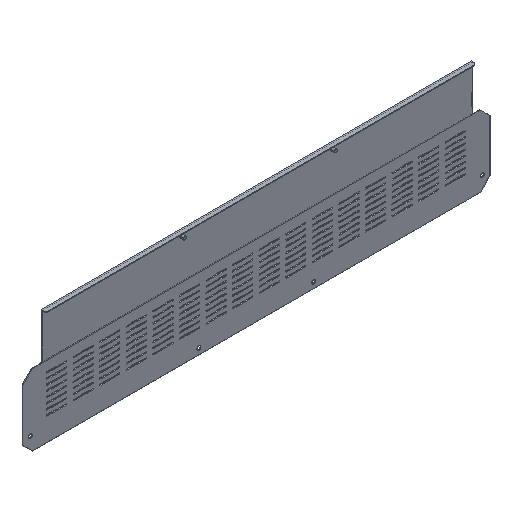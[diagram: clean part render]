
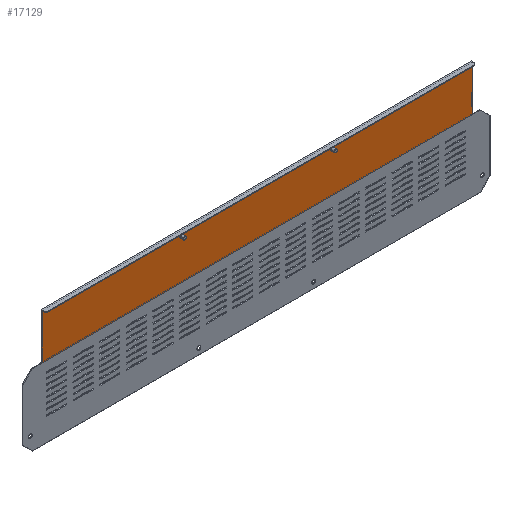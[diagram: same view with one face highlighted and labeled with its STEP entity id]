
A CAD part, isometric view. The second image highlights one B-rep face of the part: STEP entity #17129.
In plain terms, the highlighted planar face has unit normal (0, -1, 0).
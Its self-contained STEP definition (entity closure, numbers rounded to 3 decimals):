
#327 = ORIENTED_EDGE ( 'NONE', *, *, #8584, .F. ) ;
#524 = VERTEX_POINT ( 'NONE', #1787 ) ;
#1095 = VERTEX_POINT ( 'NONE', #18234 ) ;
#1181 = VERTEX_POINT ( 'NONE', #20427 ) ;
#1254 = LINE ( 'NONE', #19969, #20312 ) ;
#1562 = ORIENTED_EDGE ( 'NONE', *, *, #8973, .T. ) ;
#1728 = DIRECTION ( 'NONE',  ( 0., 0., 1. ) ) ;
#1787 = CARTESIAN_POINT ( 'NONE',  ( 39., 152.5, 78.005 ) ) ;
#1938 = LINE ( 'NONE', #11353, #7279 ) ;
#2128 = CARTESIAN_POINT ( 'NONE',  ( 45., 152.5, 77.995 ) ) ;
#2314 = EDGE_CURVE ( 'NONE', #8394, #15529, #17097, .T. ) ;
#2415 = CARTESIAN_POINT ( 'NONE',  ( -244.753, 152.5, 79.191 ) ) ;
#2444 = DIRECTION ( 'NONE',  ( 0., 0., 1. ) ) ;
#2530 = CARTESIAN_POINT ( 'NONE',  ( 304.75, 152.5, 88. ) ) ;
#2614 = CIRCLE ( 'NONE', #14310, 3. ) ;
#2991 = EDGE_CURVE ( 'NONE', #17244, #524, #7088, .T. ) ;
#3289 = FACE_BOUND ( 'NONE', #8401, .T. ) ;
#3604 = CARTESIAN_POINT ( 'NONE',  ( -242., 152.5, 78. ) ) ;
#3870 = DIRECTION ( 'NONE',  ( 0., -1., 0. ) ) ;
#3926 = ORIENTED_EDGE ( 'NONE', *, *, #17532, .T. ) ;
#3974 = DIRECTION ( 'NONE',  ( 0., 0., 1. ) ) ;
#4198 = DIRECTION ( 'NONE',  ( 0., 0., 1. ) ) ;
#4284 = VECTOR ( 'NONE', #9098, 1000. ) ;
#4383 = ORIENTED_EDGE ( 'NONE', *, *, #17153, .F. ) ;
#4393 = DIRECTION ( 'NONE',  ( 0., 0., -1. ) ) ;
#4680 = VERTEX_POINT ( 'NONE', #20259 ) ;
#5287 = CARTESIAN_POINT ( 'NONE',  ( -504.75, 152.5, 3. ) ) ;
#5906 = CIRCLE ( 'NONE', #9590, 3. ) ;
#6324 = DIRECTION ( 'NONE',  ( 0., 1., 0. ) ) ;
#6381 = CARTESIAN_POINT ( 'NONE',  ( -504.75, 152.5, 4.036 ) ) ;
#6534 = ORIENTED_EDGE ( 'NONE', *, *, #9200, .T. ) ;
#6985 = CARTESIAN_POINT ( 'NONE',  ( -242., 152.5, 78. ) ) ;
#7088 = CIRCLE ( 'NONE', #14789, 3. ) ;
#7278 = CARTESIAN_POINT ( 'NONE',  ( -504.75, 152.5, 4.036 ) ) ;
#7279 = VECTOR ( 'NONE', #17733, 1000. ) ;
#7434 = CARTESIAN_POINT ( 'NONE',  ( 304.75, 152.5, 0.293 ) ) ;
#7572 = EDGE_CURVE ( 'NONE', #1181, #19474, #18215, .T. ) ;
#7625 = VERTEX_POINT ( 'NONE', #2530 ) ;
#7838 = EDGE_CURVE ( 'NONE', #18586, #4680, #14861, .T. ) ;
#8097 = CARTESIAN_POINT ( 'NONE',  ( 42., 152.5, 78. ) ) ;
#8394 = VERTEX_POINT ( 'NONE', #20655 ) ;
#8401 = EDGE_LOOP ( 'NONE', ( #8544, #327 ) ) ;
#8405 = ORIENTED_EDGE ( 'NONE', *, *, #9866, .T. ) ;
#8544 = ORIENTED_EDGE ( 'NONE', *, *, #2314, .F. ) ;
#8584 = EDGE_CURVE ( 'NONE', #15529, #8394, #5906, .T. ) ;
#8675 = CARTESIAN_POINT ( 'NONE',  ( 42., 152.5, 78. ) ) ;
#8916 = VECTOR ( 'NONE', #9105, 1000. ) ;
#8973 = EDGE_CURVE ( 'NONE', #1095, #7625, #14471, .T. ) ;
#9087 = ORIENTED_EDGE ( 'NONE', *, *, #7572, .F. ) ;
#9098 = DIRECTION ( 'NONE',  ( -1., 0., 0. ) ) ;
#9105 = DIRECTION ( 'NONE',  ( 0., 0., 1. ) ) ;
#9200 = EDGE_CURVE ( 'NONE', #18586, #1095, #10778, .T. ) ;
#9361 = EDGE_CURVE ( 'NONE', #9573, #11588, #15034, .T. ) ;
#9561 = DIRECTION ( 'NONE',  ( 0., 0., -1. ) ) ;
#9570 = VECTOR ( 'NONE', #13084, 1000. ) ;
#9573 = VERTEX_POINT ( 'NONE', #7278 ) ;
#9590 = AXIS2_PLACEMENT_3D ( 'NONE', #3604, #9980, #2444 ) ;
#9670 = DIRECTION ( 'NONE',  ( 0., -1., 0. ) ) ;
#9866 = EDGE_CURVE ( 'NONE', #11588, #4680, #1938, .T. ) ;
#9980 = DIRECTION ( 'NONE',  ( 0., -1., 0. ) ) ;
#10778 = LINE ( 'NONE', #7434, #8916 ) ;
#11353 = CARTESIAN_POINT ( 'NONE',  ( 0., 152.5, 3. ) ) ;
#11588 = VERTEX_POINT ( 'NONE', #5287 ) ;
#11593 = VECTOR ( 'NONE', #17705, 1000. ) ;
#11614 = CARTESIAN_POINT ( 'NONE',  ( -504.75, 152.5, 88. ) ) ;
#12442 = LINE ( 'NONE', #13606, #4284 ) ;
#12595 = CARTESIAN_POINT ( 'NONE',  ( 0., 152.5, 0.293 ) ) ;
#12876 = CARTESIAN_POINT ( 'NONE',  ( 304.75, 152.5, 0.293 ) ) ;
#12928 = ORIENTED_EDGE ( 'NONE', *, *, #15490, .T. ) ;
#13084 = DIRECTION ( 'NONE',  ( 0., 0., -1. ) ) ;
#13606 = CARTESIAN_POINT ( 'NONE',  ( 0., 152.5, 88. ) ) ;
#13788 = CARTESIAN_POINT ( 'NONE',  ( 304.75, 152.5, 4.036 ) ) ;
#13902 = VECTOR ( 'NONE', #4198, 1000. ) ;
#14310 = AXIS2_PLACEMENT_3D ( 'NONE', #8097, #9670, #1728 ) ;
#14471 = LINE ( 'NONE', #19260, #11593 ) ;
#14592 = EDGE_LOOP ( 'NONE', ( #4383, #18606 ) ) ;
#14733 = ORIENTED_EDGE ( 'NONE', *, *, #7838, .F. ) ;
#14789 = AXIS2_PLACEMENT_3D ( 'NONE', #8675, #3870, #3974 ) ;
#14861 = LINE ( 'NONE', #12876, #9570 ) ;
#15034 = LINE ( 'NONE', #6381, #15293 ) ;
#15293 = VECTOR ( 'NONE', #16018, 1000. ) ;
#15490 = EDGE_CURVE ( 'NONE', #7625, #19474, #12442, .T. ) ;
#15529 = VERTEX_POINT ( 'NONE', #2415 ) ;
#16018 = DIRECTION ( 'NONE',  ( 0., 0., -1. ) ) ;
#17074 = CARTESIAN_POINT ( 'NONE',  ( -504.75, 152.5, 0.293 ) ) ;
#17097 = CIRCLE ( 'NONE', #19091, 3. ) ;
#17129 = ADVANCED_FACE ( 'NONE', ( #17818, #3289, #19169 ), #20645, .F. ) ;
#17153 = EDGE_CURVE ( 'NONE', #524, #17244, #2614, .T. ) ;
#17244 = VERTEX_POINT ( 'NONE', #2128 ) ;
#17532 = EDGE_CURVE ( 'NONE', #1181, #9573, #1254, .T. ) ;
#17638 = ORIENTED_EDGE ( 'NONE', *, *, #9361, .T. ) ;
#17705 = DIRECTION ( 'NONE',  ( 0., 0., 1. ) ) ;
#17733 = DIRECTION ( 'NONE',  ( 1., 0., 0. ) ) ;
#17818 = FACE_BOUND ( 'NONE', #14592, .T. ) ;
#17973 = AXIS2_PLACEMENT_3D ( 'NONE', #12595, #6324, #9561 ) ;
#18215 = LINE ( 'NONE', #17074, #13902 ) ;
#18234 = CARTESIAN_POINT ( 'NONE',  ( 304.75, 152.5, 87. ) ) ;
#18586 = VERTEX_POINT ( 'NONE', #13788 ) ;
#18606 = ORIENTED_EDGE ( 'NONE', *, *, #2991, .F. ) ;
#19091 = AXIS2_PLACEMENT_3D ( 'NONE', #6985, #19733, #19522 ) ;
#19169 = FACE_OUTER_BOUND ( 'NONE', #19624, .T. ) ;
#19260 = CARTESIAN_POINT ( 'NONE',  ( 304.75, 152.5, 87. ) ) ;
#19474 = VERTEX_POINT ( 'NONE', #11614 ) ;
#19522 = DIRECTION ( 'NONE',  ( 0., 0., 1. ) ) ;
#19624 = EDGE_LOOP ( 'NONE', ( #3926, #17638, #8405, #14733, #6534, #1562, #12928, #9087 ) ) ;
#19733 = DIRECTION ( 'NONE',  ( 0., -1., 0. ) ) ;
#19969 = CARTESIAN_POINT ( 'NONE',  ( -504.75, 152.5, 0.293 ) ) ;
#20259 = CARTESIAN_POINT ( 'NONE',  ( 304.75, 152.5, 3. ) ) ;
#20312 = VECTOR ( 'NONE', #4393, 1000. ) ;
#20427 = CARTESIAN_POINT ( 'NONE',  ( -504.75, 152.5, 87. ) ) ;
#20645 = PLANE ( 'NONE',  #17973 ) ;
#20655 = CARTESIAN_POINT ( 'NONE',  ( -239.247, 152.5, 76.809 ) ) ;
